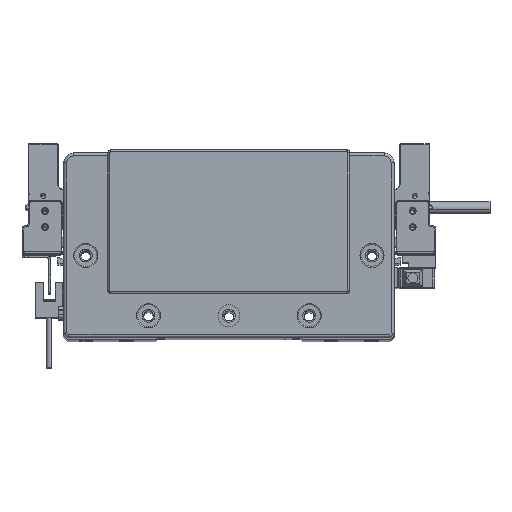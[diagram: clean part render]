
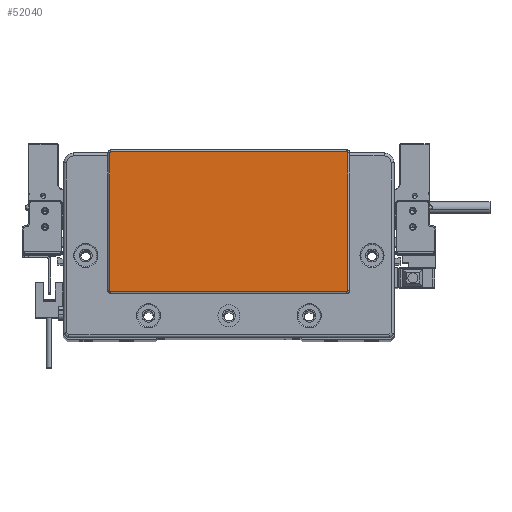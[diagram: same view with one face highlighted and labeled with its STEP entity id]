
A CAD part, top view. The second image highlights one B-rep face of the part: STEP entity #52040.
In plain terms, the highlighted planar face has unit normal (0, 0, 1) as drawn and (0, 0, -1) by its records, which use the part's own axes.
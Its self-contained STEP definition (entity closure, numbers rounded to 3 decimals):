
#1700 = ORIENTED_EDGE ( 'NONE', *, *, #44742, .T. ) ;
#2199 = DIRECTION ( 'NONE',  ( 0., 0., -1. ) ) ;
#2583 = DIRECTION ( 'NONE',  ( 0., 0., -1. ) ) ;
#2645 = PLANE ( 'NONE',  #19902 ) ;
#3950 = LINE ( 'NONE', #83704, #49435 ) ;
#4853 = CIRCLE ( 'NONE', #9329, 0.5 ) ;
#5700 = EDGE_CURVE ( 'NONE', #52996, #82822, #79035, .T. ) ;
#5851 = DIRECTION ( 'NONE',  ( 0., 0., -1. ) ) ;
#7135 = ORIENTED_EDGE ( 'NONE', *, *, #25451, .T. ) ;
#8488 = CARTESIAN_POINT ( 'NONE',  ( -59.25, 45.3, -2. ) ) ;
#9329 = AXIS2_PLACEMENT_3D ( 'NONE', #37258, #51922, #87746 ) ;
#9681 = CARTESIAN_POINT ( 'NONE',  ( 0., 0., -2. ) ) ;
#11319 = EDGE_CURVE ( 'NONE', #89427, #52996, #71931, .T. ) ;
#12144 = CARTESIAN_POINT ( 'NONE',  ( -58.75, 45.8, -2. ) ) ;
#12810 = EDGE_CURVE ( 'NONE', #15116, #38206, #90240, .T. ) ;
#15116 = VERTEX_POINT ( 'NONE', #69596 ) ;
#19902 = AXIS2_PLACEMENT_3D ( 'NONE', #9681, #2199, #87623 ) ;
#20465 = DIRECTION ( 'NONE',  ( -1., 0., 0. ) ) ;
#21555 = DIRECTION ( 'NONE',  ( 0., 0., -1. ) ) ;
#23326 = CARTESIAN_POINT ( 'NONE',  ( -59.25, -23.3, -2. ) ) ;
#23926 = AXIS2_PLACEMENT_3D ( 'NONE', #46985, #2583, #38933 ) ;
#25451 = EDGE_CURVE ( 'NONE', #82822, #15116, #81329, .T. ) ;
#30974 = FACE_OUTER_BOUND ( 'NONE', #57595, .T. ) ;
#31298 = VECTOR ( 'NONE', #52112, 1000. ) ;
#33895 = VECTOR ( 'NONE', #67142, 1000. ) ;
#37258 = CARTESIAN_POINT ( 'NONE',  ( -58.75, 45.3, -2. ) ) ;
#38206 = VERTEX_POINT ( 'NONE', #70611 ) ;
#38620 = ORIENTED_EDGE ( 'NONE', *, *, #5700, .T. ) ;
#38933 = DIRECTION ( 'NONE',  ( -1., 0., 0. ) ) ;
#39979 = ORIENTED_EDGE ( 'NONE', *, *, #63244, .T. ) ;
#40172 = CARTESIAN_POINT ( 'NONE',  ( 58.75, 45.8, -2. ) ) ;
#42524 = CARTESIAN_POINT ( 'NONE',  ( -58.75, -23.8, -2. ) ) ;
#44742 = EDGE_CURVE ( 'NONE', #58371, #89427, #4853, .T. ) ;
#46985 = CARTESIAN_POINT ( 'NONE',  ( 58.75, -23.3, -2. ) ) ;
#49435 = VECTOR ( 'NONE', #91708, 1000. ) ;
#49784 = CARTESIAN_POINT ( 'NONE',  ( 59.25, 45.3, -2. ) ) ;
#50363 = AXIS2_PLACEMENT_3D ( 'NONE', #85142, #5851, #20465 ) ;
#50407 = DIRECTION ( 'NONE',  ( -1., 0., 0. ) ) ;
#51044 = CIRCLE ( 'NONE', #79642, 0.5 ) ;
#51922 = DIRECTION ( 'NONE',  ( 0., 0., -1. ) ) ;
#52040 = ADVANCED_FACE ( 'NONE', ( #30974 ), #2645, .T. ) ;
#52112 = DIRECTION ( 'NONE',  ( 1., 0., 0. ) ) ;
#52996 = VERTEX_POINT ( 'NONE', #40172 ) ;
#53034 = CARTESIAN_POINT ( 'NONE',  ( 58.75, 45.8, -2. ) ) ;
#55493 = VECTOR ( 'NONE', #86207, 1000. ) ;
#57595 = EDGE_LOOP ( 'NONE', ( #7135, #63378, #39979, #74098, #61863, #1700, #74545, #38620 ) ) ;
#58248 = LINE ( 'NONE', #87933, #33895 ) ;
#58371 = VERTEX_POINT ( 'NONE', #8488 ) ;
#61863 = ORIENTED_EDGE ( 'NONE', *, *, #82935, .T. ) ;
#63244 = EDGE_CURVE ( 'NONE', #38206, #93392, #3950, .T. ) ;
#63378 = ORIENTED_EDGE ( 'NONE', *, *, #12810, .T. ) ;
#67142 = DIRECTION ( 'NONE',  ( 0., 1., 0. ) ) ;
#69596 = CARTESIAN_POINT ( 'NONE',  ( 59.25, -23.3, -2. ) ) ;
#70611 = CARTESIAN_POINT ( 'NONE',  ( 58.75, -23.8, -2. ) ) ;
#71931 = LINE ( 'NONE', #53034, #31298 ) ;
#74098 = ORIENTED_EDGE ( 'NONE', *, *, #85754, .T. ) ;
#74545 = ORIENTED_EDGE ( 'NONE', *, *, #11319, .T. ) ;
#79035 = CIRCLE ( 'NONE', #50363, 0.5 ) ;
#79323 = VERTEX_POINT ( 'NONE', #23326 ) ;
#79642 = AXIS2_PLACEMENT_3D ( 'NONE', #86692, #21555, #50407 ) ;
#81329 = LINE ( 'NONE', #87948, #55493 ) ;
#82822 = VERTEX_POINT ( 'NONE', #49784 ) ;
#82935 = EDGE_CURVE ( 'NONE', #79323, #58371, #58248, .T. ) ;
#83704 = CARTESIAN_POINT ( 'NONE',  ( -58.75, -23.8, -2. ) ) ;
#85142 = CARTESIAN_POINT ( 'NONE',  ( 58.75, 45.3, -2. ) ) ;
#85754 = EDGE_CURVE ( 'NONE', #93392, #79323, #51044, .T. ) ;
#86207 = DIRECTION ( 'NONE',  ( 0., -1., 0. ) ) ;
#86692 = CARTESIAN_POINT ( 'NONE',  ( -58.75, -23.3, -2. ) ) ;
#87623 = DIRECTION ( 'NONE',  ( -1., 0., 0. ) ) ;
#87746 = DIRECTION ( 'NONE',  ( -1., 0., 0. ) ) ;
#87933 = CARTESIAN_POINT ( 'NONE',  ( -59.25, 45.3, -2. ) ) ;
#87948 = CARTESIAN_POINT ( 'NONE',  ( 59.25, -23.3, -2. ) ) ;
#89427 = VERTEX_POINT ( 'NONE', #12144 ) ;
#90240 = CIRCLE ( 'NONE', #23926, 0.5 ) ;
#91708 = DIRECTION ( 'NONE',  ( -1., 0., 0. ) ) ;
#93392 = VERTEX_POINT ( 'NONE', #42524 ) ;
